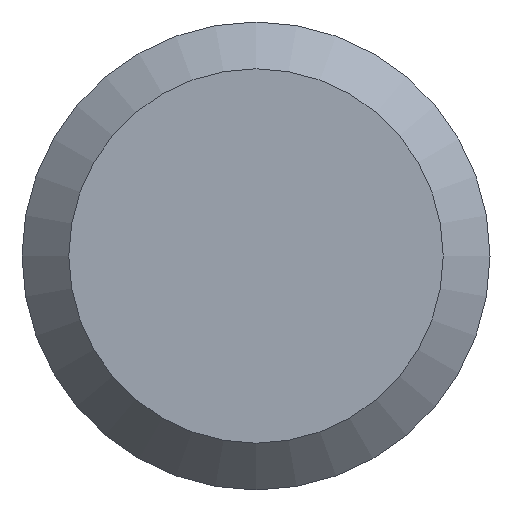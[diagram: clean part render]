
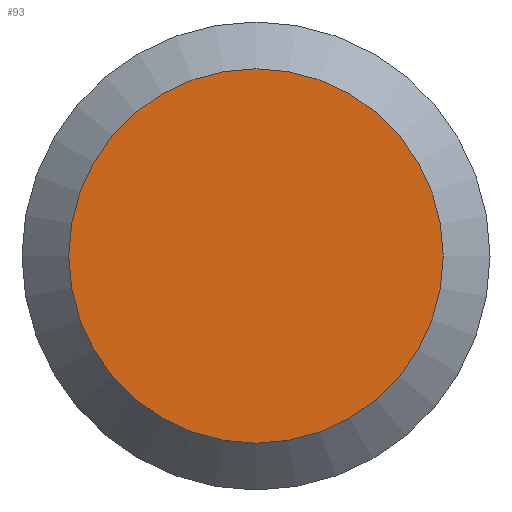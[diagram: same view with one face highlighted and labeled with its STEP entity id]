
A CAD part, left-side view. The second image highlights one B-rep face of the part: STEP entity #93.
In plain terms, the highlighted planar face has unit normal (-1, 0, 0).
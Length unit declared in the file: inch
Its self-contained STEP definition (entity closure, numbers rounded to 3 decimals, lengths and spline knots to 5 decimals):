
#8 = AXIS2_PLACEMENT_3D ( 'NONE', #97, #18, #238 ) ;
#18 = DIRECTION ( 'NONE',  ( 1., 0., 0. ) ) ;
#21 = VERTEX_POINT ( 'NONE', #245 ) ;
#42 = ORIENTED_EDGE ( 'NONE', *, *, #167, .T. ) ;
#61 = DIRECTION ( 'NONE',  ( -1., 0., 0. ) ) ;
#73 = AXIS2_PLACEMENT_3D ( 'NONE', #195, #61, #172 ) ;
#93 = ADVANCED_FACE ( 'NONE', ( #105 ), #241, .F. ) ;
#97 = CARTESIAN_POINT ( 'NONE',  ( 0., 0.0275, 0. ) ) ;
#105 = FACE_OUTER_BOUND ( 'NONE', #118, .T. ) ;
#118 = EDGE_LOOP ( 'NONE', ( #42 ) ) ;
#135 = CIRCLE ( 'NONE', #73, 0.022 ) ;
#167 = EDGE_CURVE ( 'NONE', #21, #21, #135, .T. ) ;
#172 = DIRECTION ( 'NONE',  ( 0., 0., -1. ) ) ;
#195 = CARTESIAN_POINT ( 'NONE',  ( 0., 0., 0. ) ) ;
#238 = DIRECTION ( 'NONE',  ( 0., 0., -1. ) ) ;
#241 = PLANE ( 'NONE',  #8 ) ;
#245 = CARTESIAN_POINT ( 'NONE',  ( 0., 0., -0.022 ) ) ;
